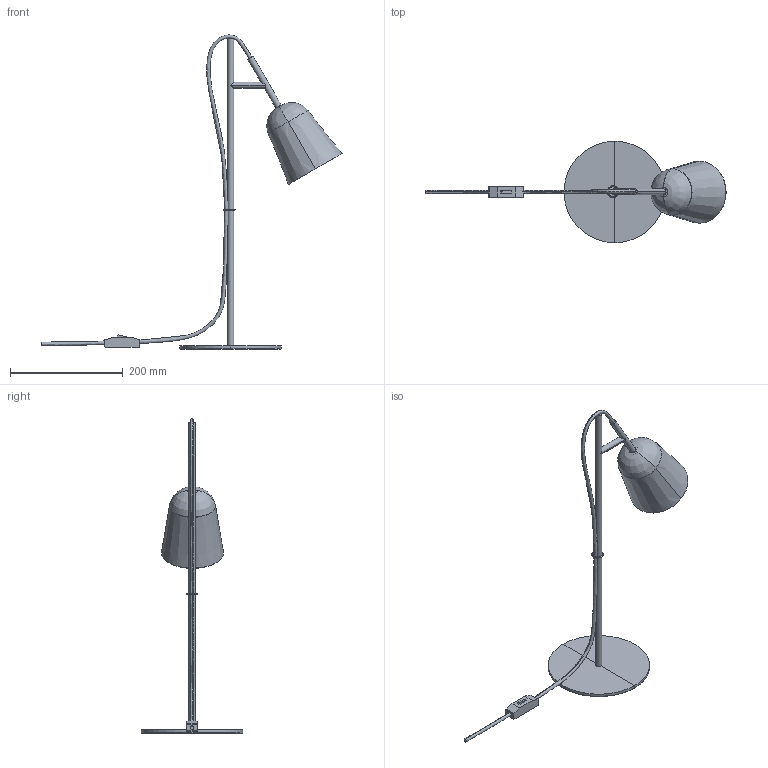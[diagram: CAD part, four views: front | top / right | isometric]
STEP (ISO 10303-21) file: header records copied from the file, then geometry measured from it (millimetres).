
FILE_DESCRIPTION(/* description */ (''),/* implementation_level */ '2;1');
FILE_NAME(/* name */ '28251.step',/* time_stamp */ '2024-06-10T10:10:23+02:00',/* author */ ('RenataManzini'),/* organization */ (''),/* preprocessor_version */ 'ST-DEVELOPER v20',/* originating_system */ 'AutoCAD Mechanical',/* authorisation */ '');
FILE_SCHEMA (('AUTOMOTIVE_DESIGN { 1 0 10303 214 3 1 1 }'));
Length unit declared in the file: millimetre
Products named in the file (2): Product; studio_sobremesa - STUDIO-631690-_3D_
Assembly tree (1 placements, depth 2):
  Product
    studio_sobremesa - STUDIO-631690-_3D_
Bounding box: 532.47 x 180 x 557.34 mm (x, y, z)
Volume: 415907 mm3; surface area: 189846.5 mm2
Topology: 7 solids, 7 shells, 74 faces, 159 edges, 96 vertices
Faces by surface type: plane 35, cylinder 21, bspline 10, cone 4, torus 4
Entity records: 7982 total; most frequent: CARTESIAN_POINT 6383, DIRECTION 332, ORIENTED_EDGE 308, EDGE_CURVE 154, AXIS2_PLACEMENT_3D 132, VERTEX_POINT 91, EDGE_LOOP 75, FACE_OUTER_BOUND 74
